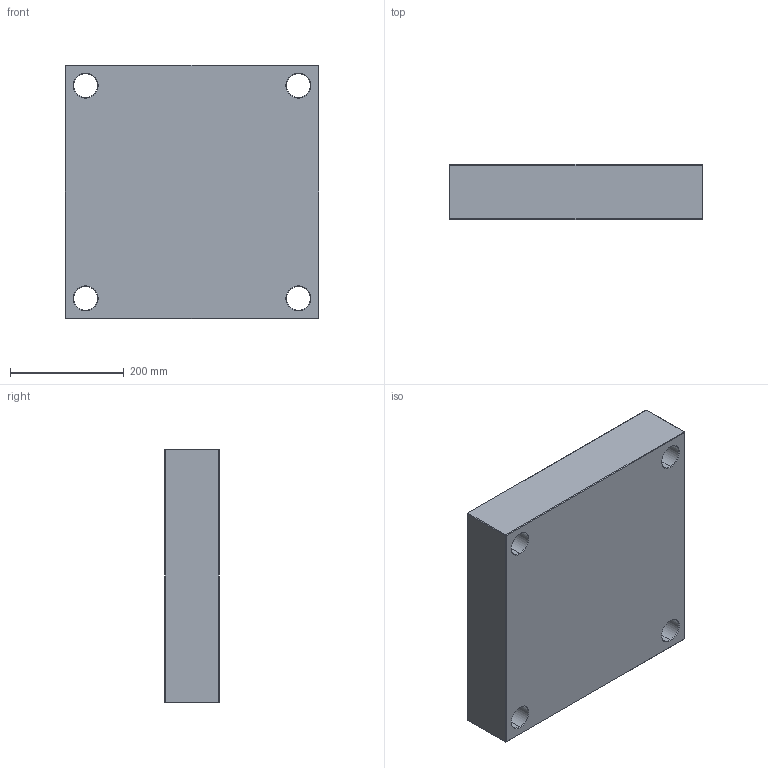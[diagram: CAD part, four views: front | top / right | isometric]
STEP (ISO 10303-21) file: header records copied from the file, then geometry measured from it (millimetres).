
FILE_DESCRIPTION (( 'STEP AP214' ), '1' );
FILE_NAME ('PC-446x446x96.STEP', '2020-04-21T17:38:14', ( 'August' ), ( '' ), 'SwSTEP 2.0', 'SolidWorks 2018', '' );
FILE_SCHEMA (( 'AUTOMOTIVE_DESIGN' ));
Length unit declared in the file: millimetre
Products named in the file (1): PC-446x446x96
Bounding box: 446 x 96 x 446 mm (x, y, z)
Volume: 18530483 mm3; surface area: 611098.9 mm2
Topology: 1 solids, 1 shells, 82 faces, 168 edges, 96 vertices
Faces by surface type: plane 34, cone 24, cylinder 24
Entity records: 2170 total; most frequent: DIRECTION 406, CARTESIAN_POINT 347, ORIENTED_EDGE 336, EDGE_CURVE 168, AXIS2_PLACEMENT_3D 155, EDGE_LOOP 98, VERTEX_POINT 96, VECTOR 96
